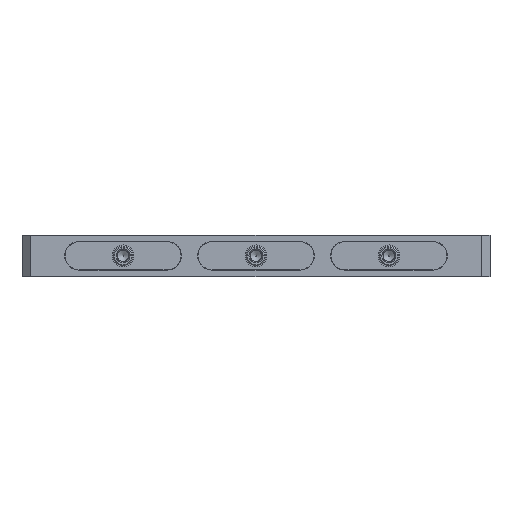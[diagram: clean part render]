
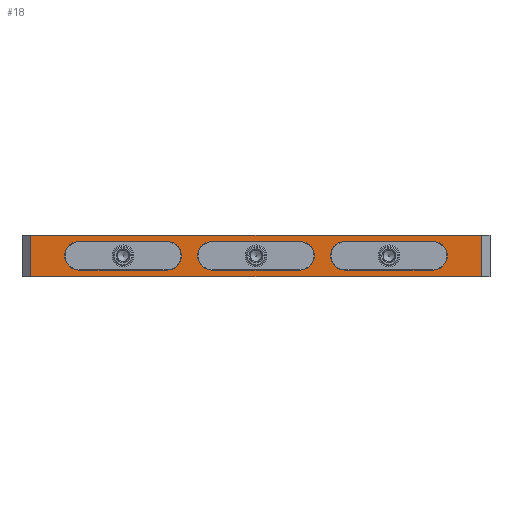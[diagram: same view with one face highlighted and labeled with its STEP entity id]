
A CAD part, top view. The second image highlights one B-rep face of the part: STEP entity #18.
In plain terms, the highlighted planar face has unit normal (0, 0, 1).
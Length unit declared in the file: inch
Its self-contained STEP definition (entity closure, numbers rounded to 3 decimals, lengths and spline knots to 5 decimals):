
#18 = ADVANCED_FACE ( 'NONE', ( #34441, #599, #15650, #45811 ), #42103, .F. ) ;
#205 = LINE ( 'NONE', #41485, #33163 ) ;
#299 = DIRECTION ( 'NONE',  ( 1., 0., 0. ) ) ;
#567 = LINE ( 'NONE', #36089, #11628 ) ;
#599 = FACE_BOUND ( 'NONE', #15701, .T. ) ;
#665 = ORIENTED_EDGE ( 'NONE', *, *, #39048, .F. ) ;
#1029 = AXIS2_PLACEMENT_3D ( 'NONE', #28197, #27955, #39093 ) ;
#1247 = EDGE_LOOP ( 'NONE', ( #21513, #1318, #20888, #12686 ) ) ;
#1318 = ORIENTED_EDGE ( 'NONE', *, *, #8257, .F. ) ;
#1415 = VECTOR ( 'NONE', #34831, 39.37008 ) ;
#1441 = ORIENTED_EDGE ( 'NONE', *, *, #31412, .F. ) ;
#2765 = EDGE_LOOP ( 'NONE', ( #44056, #41012, #1441, #4839 ) ) ;
#2885 = VECTOR ( 'NONE', #12041, 39.37008 ) ;
#3018 = VERTEX_POINT ( 'NONE', #42902 ) ;
#3411 = EDGE_CURVE ( 'NONE', #34719, #13467, #46501, .T. ) ;
#4371 = CARTESIAN_POINT ( 'NONE',  ( -5.03453, 0.18705, 3.07087 ) ) ;
#4532 = DIRECTION ( 'NONE',  ( 0., 0., -1. ) ) ;
#4661 = CARTESIAN_POINT ( 'NONE',  ( 5.03453, 0.18705, 3.07087 ) ) ;
#4839 = ORIENTED_EDGE ( 'NONE', *, *, #13612, .T. ) ;
#4840 = VECTOR ( 'NONE', #46920, 39.37008 ) ;
#4942 = VERTEX_POINT ( 'NONE', #11336 ) ;
#5063 = EDGE_CURVE ( 'NONE', #24038, #34719, #205, .T. ) ;
#5372 = CARTESIAN_POINT ( 'NONE',  ( -5.03453, 0.59055, 3.07087 ) ) ;
#6352 = VECTOR ( 'NONE', #32125, 39.37008 ) ;
#6448 = ORIENTED_EDGE ( 'NONE', *, *, #5063, .F. ) ;
#6575 = VECTOR ( 'NONE', #18034, 39.37008 ) ;
#6584 = ORIENTED_EDGE ( 'NONE', *, *, #17462, .F. ) ;
#7525 = EDGE_CURVE ( 'NONE', #46552, #9191, #13611, .T. ) ;
#7601 = DIRECTION ( 'NONE',  ( -1., 0., 0. ) ) ;
#8203 = CIRCLE ( 'NONE', #14539, 0.4035 ) ;
#8230 = CARTESIAN_POINT ( 'NONE',  ( -6.65354, 1.1811, 3.07087 ) ) ;
#8257 = EDGE_CURVE ( 'NONE', #9191, #19369, #27870, .T. ) ;
#9034 = DIRECTION ( 'NONE',  ( 1., 0., 0. ) ) ;
#9191 = VERTEX_POINT ( 'NONE', #17797 ) ;
#11336 = CARTESIAN_POINT ( 'NONE',  ( -2.52453, 0.18705, 3.07087 ) ) ;
#11628 = VECTOR ( 'NONE', #46760, 39.37008 ) ;
#11807 = CARTESIAN_POINT ( 'NONE',  ( 6.40354, 1.1811, 3.07087 ) ) ;
#12041 = DIRECTION ( 'NONE',  ( 0., 1., 0. ) ) ;
#12425 = VECTOR ( 'NONE', #13617, 39.37008 ) ;
#12686 = ORIENTED_EDGE ( 'NONE', *, *, #18225, .F. ) ;
#13467 = VERTEX_POINT ( 'NONE', #15623 ) ;
#13552 = EDGE_CURVE ( 'NONE', #43377, #23614, #567, .T. ) ;
#13611 = LINE ( 'NONE', #39804, #6575 ) ;
#13612 = EDGE_CURVE ( 'NONE', #25883, #3018, #39808, .T. ) ;
#13617 = DIRECTION ( 'NONE',  ( 0., -1., 0. ) ) ;
#13713 = VERTEX_POINT ( 'NONE', #40294 ) ;
#14436 = AXIS2_PLACEMENT_3D ( 'NONE', #48869, #37722, #18928 ) ;
#14539 = AXIS2_PLACEMENT_3D ( 'NONE', #19770, #27462, #42539 ) ;
#14794 = EDGE_LOOP ( 'NONE', ( #39364, #18318, #6448, #665 ) ) ;
#14799 = VECTOR ( 'NONE', #9034, 39.37008 ) ;
#15623 = CARTESIAN_POINT ( 'NONE',  ( -5.03453, 0.18705, 3.07087 ) ) ;
#15650 = FACE_BOUND ( 'NONE', #14794, .T. ) ;
#15683 = CARTESIAN_POINT ( 'NONE',  ( 6.40354, 0., 3.07087 ) ) ;
#15701 = EDGE_LOOP ( 'NONE', ( #6584, #34517, #41989, #31025 ) ) ;
#16529 = LINE ( 'NONE', #46720, #1415 ) ;
#16672 = EDGE_CURVE ( 'NONE', #3018, #38449, #35590, .T. ) ;
#16726 = DIRECTION ( 'NONE',  ( 0., 0., 1. ) ) ;
#17055 = CARTESIAN_POINT ( 'NONE',  ( -6.65354, 0., 3.07087 ) ) ;
#17462 = EDGE_CURVE ( 'NONE', #13713, #21501, #28109, .T. ) ;
#17797 = CARTESIAN_POINT ( 'NONE',  ( -1.255, 0.99405, 3.07087 ) ) ;
#18034 = DIRECTION ( 'NONE',  ( -1., 0., 0. ) ) ;
#18225 = EDGE_CURVE ( 'NONE', #28883, #46552, #21419, .T. ) ;
#18318 = ORIENTED_EDGE ( 'NONE', *, *, #3411, .F. ) ;
#18889 = CARTESIAN_POINT ( 'NONE',  ( 1.255, 0.18705, 3.07087 ) ) ;
#18928 = DIRECTION ( 'NONE',  ( 1., 0., 0. ) ) ;
#19309 = CARTESIAN_POINT ( 'NONE',  ( 1.255, 0.59055, 3.07087 ) ) ;
#19369 = VERTEX_POINT ( 'NONE', #26123 ) ;
#19397 = CARTESIAN_POINT ( 'NONE',  ( 5.03453, 0.99405, 3.07087 ) ) ;
#19588 = DIRECTION ( 'NONE',  ( -1., 0., 0. ) ) ;
#19649 = VERTEX_POINT ( 'NONE', #39687 ) ;
#19770 = CARTESIAN_POINT ( 'NONE',  ( 2.52453, 0.59055, 3.07087 ) ) ;
#19871 = CARTESIAN_POINT ( 'NONE',  ( 5.03453, 0.59055, 3.07087 ) ) ;
#20372 = CARTESIAN_POINT ( 'NONE',  ( 1.255, 0.99405, 3.07087 ) ) ;
#20404 = DIRECTION ( 'NONE',  ( 1., 0., 0. ) ) ;
#20772 = VECTOR ( 'NONE', #32476, 39.37008 ) ;
#20888 = ORIENTED_EDGE ( 'NONE', *, *, #7525, .F. ) ;
#21419 = CIRCLE ( 'NONE', #33268, 0.4035 ) ;
#21469 = CARTESIAN_POINT ( 'NONE',  ( 2.52453, 0.99405, 3.07087 ) ) ;
#21501 = VERTEX_POINT ( 'NONE', #4661 ) ;
#21513 = ORIENTED_EDGE ( 'NONE', *, *, #25868, .F. ) ;
#23614 = VERTEX_POINT ( 'NONE', #21469 ) ;
#24038 = VERTEX_POINT ( 'NONE', #32190 ) ;
#25868 = EDGE_CURVE ( 'NONE', #19369, #28883, #43633, .T. ) ;
#25883 = VERTEX_POINT ( 'NONE', #29280 ) ;
#26123 = CARTESIAN_POINT ( 'NONE',  ( -1.255, 0.18705, 3.07087 ) ) ;
#26919 = CARTESIAN_POINT ( 'NONE',  ( -5.03453, 0.99405, 3.07087 ) ) ;
#27462 = DIRECTION ( 'NONE',  ( 0., 0., 1. ) ) ;
#27569 = LINE ( 'NONE', #11807, #2885 ) ;
#27765 = AXIS2_PLACEMENT_3D ( 'NONE', #8230, #4532, #19588 ) ;
#27870 = CIRCLE ( 'NONE', #1029, 0.4035 ) ;
#27955 = DIRECTION ( 'NONE',  ( 0., 0., 1. ) ) ;
#28070 = LINE ( 'NONE', #4371, #14799 ) ;
#28109 = LINE ( 'NONE', #31582, #4840 ) ;
#28197 = CARTESIAN_POINT ( 'NONE',  ( -1.255, 0.59055, 3.07087 ) ) ;
#28662 = EDGE_CURVE ( 'NONE', #21501, #43377, #33653, .T. ) ;
#28683 = EDGE_CURVE ( 'NONE', #38449, #19649, #27569, .T. ) ;
#28883 = VERTEX_POINT ( 'NONE', #18889 ) ;
#29280 = CARTESIAN_POINT ( 'NONE',  ( -6.40354, 1.1811, 3.07087 ) ) ;
#29677 = EDGE_CURVE ( 'NONE', #13467, #4942, #28070, .T. ) ;
#30799 = DIRECTION ( 'NONE',  ( 0., 0., 1. ) ) ;
#31025 = ORIENTED_EDGE ( 'NONE', *, *, #28662, .F. ) ;
#31412 = EDGE_CURVE ( 'NONE', #25883, #19649, #16529, .T. ) ;
#31582 = CARTESIAN_POINT ( 'NONE',  ( 2.52453, 0.18705, 3.07087 ) ) ;
#32125 = DIRECTION ( 'NONE',  ( 1., 0., 0. ) ) ;
#32190 = CARTESIAN_POINT ( 'NONE',  ( -2.52453, 0.99405, 3.07087 ) ) ;
#32476 = DIRECTION ( 'NONE',  ( 1., 0., 0. ) ) ;
#32721 = CARTESIAN_POINT ( 'NONE',  ( -1.255, 0.18705, 3.07087 ) ) ;
#33163 = VECTOR ( 'NONE', #7601, 39.37008 ) ;
#33268 = AXIS2_PLACEMENT_3D ( 'NONE', #19309, #37358, #299 ) ;
#33653 = CIRCLE ( 'NONE', #46305, 0.4035 ) ;
#34441 = FACE_BOUND ( 'NONE', #1247, .T. ) ;
#34517 = ORIENTED_EDGE ( 'NONE', *, *, #41174, .F. ) ;
#34719 = VERTEX_POINT ( 'NONE', #26919 ) ;
#34831 = DIRECTION ( 'NONE',  ( 1., 0., 0. ) ) ;
#35590 = LINE ( 'NONE', #17055, #6352 ) ;
#35605 = CARTESIAN_POINT ( 'NONE',  ( -6.40354, 1.1811, 3.07087 ) ) ;
#36089 = CARTESIAN_POINT ( 'NONE',  ( 2.52453, 0.99405, 3.07087 ) ) ;
#37358 = DIRECTION ( 'NONE',  ( 0., 0., 1. ) ) ;
#37722 = DIRECTION ( 'NONE',  ( 0., 0., 1. ) ) ;
#38099 = CIRCLE ( 'NONE', #14436, 0.4035 ) ;
#38449 = VERTEX_POINT ( 'NONE', #15683 ) ;
#39048 = EDGE_CURVE ( 'NONE', #4942, #24038, #38099, .T. ) ;
#39093 = DIRECTION ( 'NONE',  ( 1., 0., 0. ) ) ;
#39186 = DIRECTION ( 'NONE',  ( 1., 0., 0. ) ) ;
#39364 = ORIENTED_EDGE ( 'NONE', *, *, #29677, .F. ) ;
#39687 = CARTESIAN_POINT ( 'NONE',  ( 6.40354, 1.1811, 3.07087 ) ) ;
#39804 = CARTESIAN_POINT ( 'NONE',  ( -1.255, 0.99405, 3.07087 ) ) ;
#39808 = LINE ( 'NONE', #35605, #12425 ) ;
#40294 = CARTESIAN_POINT ( 'NONE',  ( 2.52453, 0.18705, 3.07087 ) ) ;
#41012 = ORIENTED_EDGE ( 'NONE', *, *, #28683, .T. ) ;
#41174 = EDGE_CURVE ( 'NONE', #23614, #13713, #8203, .T. ) ;
#41485 = CARTESIAN_POINT ( 'NONE',  ( -5.03453, 0.99405, 3.07087 ) ) ;
#41989 = ORIENTED_EDGE ( 'NONE', *, *, #13552, .F. ) ;
#42103 = PLANE ( 'NONE',  #27765 ) ;
#42539 = DIRECTION ( 'NONE',  ( 1., 0., 0. ) ) ;
#42902 = CARTESIAN_POINT ( 'NONE',  ( -6.40354, 0., 3.07087 ) ) ;
#43377 = VERTEX_POINT ( 'NONE', #19397 ) ;
#43633 = LINE ( 'NONE', #32721, #20772 ) ;
#44056 = ORIENTED_EDGE ( 'NONE', *, *, #16672, .T. ) ;
#44143 = AXIS2_PLACEMENT_3D ( 'NONE', #5372, #16726, #20404 ) ;
#45811 = FACE_OUTER_BOUND ( 'NONE', #2765, .T. ) ;
#46305 = AXIS2_PLACEMENT_3D ( 'NONE', #19871, #30799, #39186 ) ;
#46501 = CIRCLE ( 'NONE', #44143, 0.4035 ) ;
#46552 = VERTEX_POINT ( 'NONE', #20372 ) ;
#46720 = CARTESIAN_POINT ( 'NONE',  ( -6.65354, 1.1811, 3.07087 ) ) ;
#46760 = DIRECTION ( 'NONE',  ( -1., 0., 0. ) ) ;
#46920 = DIRECTION ( 'NONE',  ( 1., 0., 0. ) ) ;
#48869 = CARTESIAN_POINT ( 'NONE',  ( -2.52453, 0.59055, 3.07087 ) ) ;
